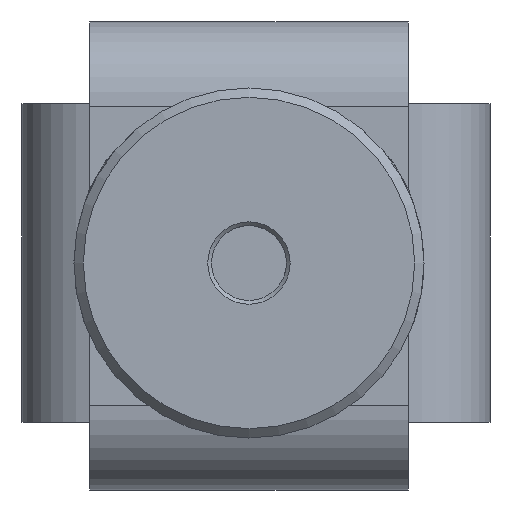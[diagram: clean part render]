
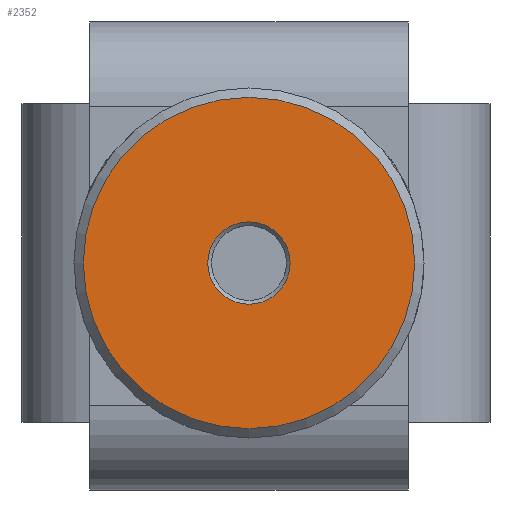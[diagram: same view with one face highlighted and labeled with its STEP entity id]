
A CAD part, front view. The second image highlights one B-rep face of the part: STEP entity #2352.
In plain terms, the highlighted planar face has unit normal (0, -1, 0).
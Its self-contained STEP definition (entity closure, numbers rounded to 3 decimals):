
#424=PLANE('',#2585);
#493=FACE_BOUND('',#818,.T.);
#619=FACE_OUTER_BOUND('',#817,.T.);
#817=EDGE_LOOP('',(#1801));
#818=EDGE_LOOP('',(#1802));
#961=CIRCLE('',#2582,2.2);
#963=CIRCLE('',#2586,8.85);
#1121=VERTEX_POINT('',#4000);
#1123=VERTEX_POINT('',#4006);
#1369=EDGE_CURVE('',#1121,#1121,#961,.T.);
#1371=EDGE_CURVE('',#1123,#1123,#963,.T.);
#1801=ORIENTED_EDGE('',*,*,#1371,.F.);
#1802=ORIENTED_EDGE('',*,*,#1369,.F.);
#2352=ADVANCED_FACE('',(#619,#493),#424,.F.);
#2582=AXIS2_PLACEMENT_3D('',#4001,#3116,#3117);
#2585=AXIS2_PLACEMENT_3D('',#4005,#3122,#3123);
#2586=AXIS2_PLACEMENT_3D('',#4007,#3124,#3125);
#3116=DIRECTION('center_axis',(0.,-1.,0.));
#3117=DIRECTION('ref_axis',(-0.5,0.,-0.866));
#3122=DIRECTION('center_axis',(0.,1.,0.));
#3123=DIRECTION('ref_axis',(-0.5,0.,-0.866));
#3124=DIRECTION('center_axis',(0.,1.,0.));
#3125=DIRECTION('ref_axis',(-0.5,0.,-0.866));
#4000=CARTESIAN_POINT('',(0.725,-15.6,1.905));
#4001=CARTESIAN_POINT('Origin',(-0.375,-15.6,0.));
#4005=CARTESIAN_POINT('Origin',(-0.375,-15.6,0.));
#4006=CARTESIAN_POINT('',(4.05,-15.6,7.664));
#4007=CARTESIAN_POINT('Origin',(-0.375,-15.6,0.));
